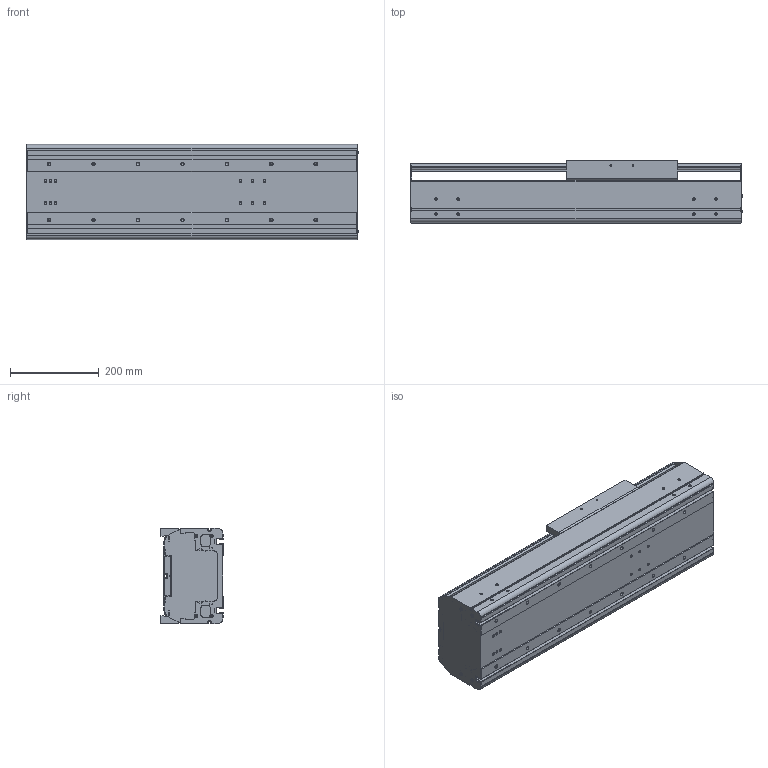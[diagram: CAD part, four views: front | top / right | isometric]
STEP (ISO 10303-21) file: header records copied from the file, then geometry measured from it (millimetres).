
FILE_DESCRIPTION((''),'2;1');
FILE_NAME('BE60G-ST-M_B-30_IGS_PRT','2017-06-18T',(' '),(''),'PRO/ENGINEER BY PARAMETRIC TECHNOLOGY CORPORATION, 2015030','PRO/ENGINEER BY PARAMETRIC TECHNOLOGY CORPORATION, 2015030','');
FILE_SCHEMA(('CONFIG_CONTROL_DESIGN'));
Length unit declared in the file: millimetre
Products named in the file (1): BE60G-ST-M_B-30_IGS_PRT
Bounding box: 747.4 x 140 x 214 mm (x, y, z)
Volume: 6511995.2 mm3; surface area: 1726749.6 mm2
Topology: 2 solids, 104 shells, 1350 faces, 3718 edges, 2433 vertices
Faces by surface type: cylinder 648, plane 574, cone 80, sphere 24, torus 24
Entity records: 44298 total; most frequent: CARTESIAN_POINT 9438, DIRECTION 7406, ORIENTED_EDGE 6880, EDGE_CURVE 3640, AXIS2_PLACEMENT_3D 2717, VERTEX_POINT 2432, VECTOR 1972, LINE 1972
